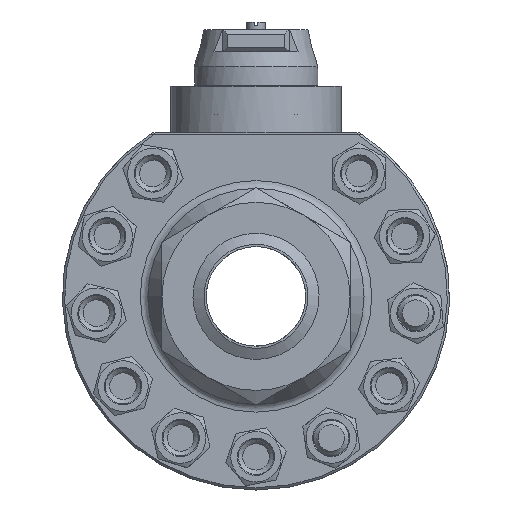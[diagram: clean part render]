
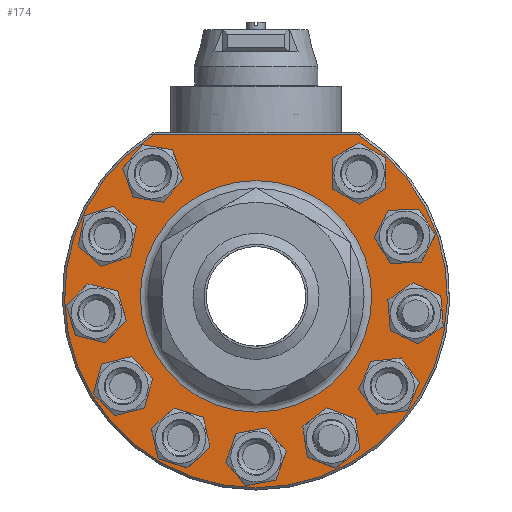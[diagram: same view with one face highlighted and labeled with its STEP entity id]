
A CAD part, left-side view. The second image highlights one B-rep face of the part: STEP entity #174.
In plain terms, the highlighted planar face has unit normal (-1, 0, 0).
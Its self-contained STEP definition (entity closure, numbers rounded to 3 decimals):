
#174=ADVANCED_FACE('',(#3542,#3544,#3546,#3548,#3550,#3552,#3554,#3556,#3558,#3560,
#3562,#3564,#3566),#3568,.T.);
#3542=FACE_BOUND('',#3543,.T.);
#3543=EDGE_LOOP('',(#8628));
#3544=FACE_BOUND('',#3545,.T.);
#3545=EDGE_LOOP('',(#8629));
#3546=FACE_BOUND('',#3547,.T.);
#3547=EDGE_LOOP('',(#8630));
#3548=FACE_BOUND('',#3549,.T.);
#3549=EDGE_LOOP('',(#8631));
#3550=FACE_BOUND('',#3551,.T.);
#3551=EDGE_LOOP('',(#8632));
#3552=FACE_BOUND('',#3553,.T.);
#3553=EDGE_LOOP('',(#8633));
#3554=FACE_BOUND('',#3555,.T.);
#3555=EDGE_LOOP('',(#8634));
#3556=FACE_BOUND('',#3557,.T.);
#3557=EDGE_LOOP('',(#8635));
#3558=FACE_BOUND('',#3559,.T.);
#3559=EDGE_LOOP('',(#8636));
#3560=FACE_BOUND('',#3561,.T.);
#3561=EDGE_LOOP('',(#8637));
#3562=FACE_BOUND('',#3563,.T.);
#3563=EDGE_LOOP('',(#8638));
#3564=FACE_BOUND('',#3565,.T.);
#3565=EDGE_LOOP('',(#8639));
#3566=FACE_OUTER_BOUND('',#3567,.T.);
#3567=EDGE_LOOP('',(#8640,#8641));
#3568=PLANE('',#3569);
#3569=AXIS2_PLACEMENT_3D('',#3570,#3571,#3572);
#3570=CARTESIAN_POINT('',(-57.5,0.,0.));
#3571=DIRECTION('',(-1.,0.,0.));
#3572=DIRECTION('',(0.,0.,-1.));
#8628=ORIENTED_EDGE('',*,*,#12796,.T.);
#8629=ORIENTED_EDGE('',*,*,#12797,.T.);
#8630=ORIENTED_EDGE('',*,*,#12798,.T.);
#8631=ORIENTED_EDGE('',*,*,#12799,.F.);
#8632=ORIENTED_EDGE('',*,*,#12800,.F.);
#8633=ORIENTED_EDGE('',*,*,#12791,.T.);
#8634=ORIENTED_EDGE('',*,*,#12801,.F.);
#8635=ORIENTED_EDGE('',*,*,#12802,.F.);
#8636=ORIENTED_EDGE('',*,*,#12803,.T.);
#8637=ORIENTED_EDGE('',*,*,#12804,.T.);
#8638=ORIENTED_EDGE('',*,*,#12805,.T.);
#8639=ORIENTED_EDGE('',*,*,#12806,.F.);
#8640=ORIENTED_EDGE('',*,*,#12807,.F.);
#8641=ORIENTED_EDGE('',*,*,#12808,.T.);
#12791=EDGE_CURVE('',#14368,#14368,#14369,.T.);
#12796=EDGE_CURVE('',#14376,#14376,#14377,.F.);
#12797=EDGE_CURVE('',#14378,#14378,#14379,.F.);
#12798=EDGE_CURVE('',#14380,#14380,#14381,.F.);
#12799=EDGE_CURVE('',#14382,#14382,#14383,.T.);
#12800=EDGE_CURVE('',#14384,#14384,#14385,.T.);
#12801=EDGE_CURVE('',#14386,#14386,#14387,.T.);
#12802=EDGE_CURVE('',#14388,#14388,#14389,.T.);
#12803=EDGE_CURVE('',#14390,#14390,#14391,.F.);
#12804=EDGE_CURVE('',#14392,#14392,#14393,.F.);
#12805=EDGE_CURVE('',#14394,#14394,#14395,.F.);
#12806=EDGE_CURVE('',#14396,#14396,#14397,.T.);
#12807=EDGE_CURVE('',#14398,#14399,#14400,.T.);
#12808=EDGE_CURVE('',#14398,#14399,#14401,.F.);
#14368=VERTEX_POINT('',#17819);
#14369=CIRCLE('',#17820,52.309);
#14376=VERTEX_POINT('',#17841);
#14377=CIRCLE('',#17842,11.4);
#14378=VERTEX_POINT('',#17846);
#14379=CIRCLE('',#17847,11.4);
#14380=VERTEX_POINT('',#17851);
#14381=CIRCLE('',#17852,11.4);
#14382=VERTEX_POINT('',#17856);
#14383=CIRCLE('',#17857,11.4);
#14384=VERTEX_POINT('',#17861);
#14385=CIRCLE('',#17862,11.4);
#14386=VERTEX_POINT('',#17866);
#14387=CIRCLE('',#17867,11.4);
#14388=VERTEX_POINT('',#17871);
#14389=CIRCLE('',#17872,11.4);
#14390=VERTEX_POINT('',#17876);
#14391=CIRCLE('',#17877,11.4);
#14392=VERTEX_POINT('',#17881);
#14393=CIRCLE('',#17882,11.4);
#14394=VERTEX_POINT('',#17886);
#14395=CIRCLE('',#17887,11.4);
#14396=VERTEX_POINT('',#17891);
#14397=CIRCLE('',#17892,11.4);
#14398=VERTEX_POINT('',#17896);
#14399=VERTEX_POINT('',#17897);
#14400=CIRCLE('',#17898,86.5);
#14401=LINE('',#17902,#17903);
#17819=CARTESIAN_POINT('',(-57.5,0.,-52.309));
#17820=AXIS2_PLACEMENT_3D('',#17821,#17822,#17823);
#17821=CARTESIAN_POINT('',(-57.5,0.,0.));
#17822=DIRECTION('',(1.,0.,0.));
#17823=DIRECTION('',(0.,0.,-1.));
#17841=CARTESIAN_POINT('',(-57.5,-46.7,44.139));
#17842=AXIS2_PLACEMENT_3D('',#17843,#17844,#17845);
#17843=CARTESIAN_POINT('',(-57.5,-46.602,55.538));
#17844=DIRECTION('',(-1.,0.,0.));
#17845=DIRECTION('',(0.,-0.009,-1.));
#17846=CARTESIAN_POINT('',(-57.5,-62.707,-14.034));
#17847=AXIS2_PLACEMENT_3D('',#17848,#17849,#17850);
#17848=CARTESIAN_POINT('',(-57.5,-72.103,-7.578));
#17849=DIRECTION('',(-1.,0.,0.));
#17850=DIRECTION('',(0.,0.824,-0.566));
#17851=CARTESIAN_POINT('',(-57.5,-23.43,-59.834));
#17852=AXIS2_PLACEMENT_3D('',#17853,#17854,#17855);
#17853=CARTESIAN_POINT('',(-57.5,-34.037,-64.014));
#17854=DIRECTION('',(-1.,0.,0.));
#17855=DIRECTION('',(0.,0.93,0.367));
#17856=CARTESIAN_POINT('',(-57.5,36.503,-52.884));
#17857=AXIS2_PLACEMENT_3D('',#17858,#17859,#17860);
#17858=CARTESIAN_POINT('',(-57.5,34.037,-64.014));
#17859=DIRECTION('',(-1.,0.,0.));
#17860=DIRECTION('',(0.,0.216,0.976));
#17861=CARTESIAN_POINT('',(-57.5,64.255,0.69));
#17862=AXIS2_PLACEMENT_3D('',#17863,#17864,#17865);
#17863=CARTESIAN_POINT('',(-57.5,72.103,-7.578));
#17864=DIRECTION('',(-1.,0.,0.));
#17865=DIRECTION('',(0.,-0.688,0.725));
#17866=CARTESIAN_POINT('',(-57.5,56.41,30.775));
#17867=AXIS2_PLACEMENT_3D('',#17868,#17869,#17870);
#17868=CARTESIAN_POINT('',(-57.5,67.221,27.159));
#17869=DIRECTION('',(-1.,0.,0.));
#17870=DIRECTION('',(0.,-0.948,0.317));
#17871=CARTESIAN_POINT('',(-57.5,57.057,-29.556));
#17872=AXIS2_PLACEMENT_3D('',#17873,#17874,#17875);
#17873=CARTESIAN_POINT('',(-57.5,60.105,-40.541));
#17874=DIRECTION('',(-1.,0.,0.));
#17875=DIRECTION('',(0.,-0.267,0.964));
#17876=CARTESIAN_POINT('',(-57.5,7.403,-63.831));
#17877=AXIS2_PLACEMENT_3D('',#17878,#17879,#17880);
#17878=CARTESIAN_POINT('',(-57.5,0.,-72.5));
#17879=DIRECTION('',(-1.,0.,0.));
#17880=DIRECTION('',(0.,0.649,0.76));
#17881=CARTESIAN_POINT('',(-57.5,-48.778,-41.831));
#17882=AXIS2_PLACEMENT_3D('',#17883,#17884,#17885);
#17883=CARTESIAN_POINT('',(-57.5,-60.105,-40.541));
#17884=DIRECTION('',(-1.,0.,0.));
#17885=DIRECTION('',(0.,0.994,-0.113));
#17886=CARTESIAN_POINT('',(-57.5,-61.956,17.048));
#17887=AXIS2_PLACEMENT_3D('',#17888,#17889,#17890);
#17888=CARTESIAN_POINT('',(-57.5,-67.221,27.159));
#17889=DIRECTION('',(-1.,0.,0.));
#17890=DIRECTION('',(0.,0.462,-0.887));
#17891=CARTESIAN_POINT('',(-57.5,35.359,53.655));
#17892=AXIS2_PLACEMENT_3D('',#17893,#17894,#17895);
#17893=CARTESIAN_POINT('',(-57.5,46.602,55.538));
#17894=DIRECTION('',(-1.,0.,0.));
#17895=DIRECTION('',(0.,-0.986,-0.165));
#17896=CARTESIAN_POINT('',(-57.5,-46.403,73.));
#17897=CARTESIAN_POINT('',(-57.5,46.403,73.));
#17898=AXIS2_PLACEMENT_3D('',#17899,#17900,#17901);
#17899=CARTESIAN_POINT('',(-57.5,0.,0.));
#17900=DIRECTION('',(1.,0.,0.));
#17901=DIRECTION('',(0.,-0.536,0.844));
#17902=CARTESIAN_POINT('',(-57.5,46.403,73.));
#17903=VECTOR('',#17904,1.);
#17904=DIRECTION('',(0.,-1.,0.));
